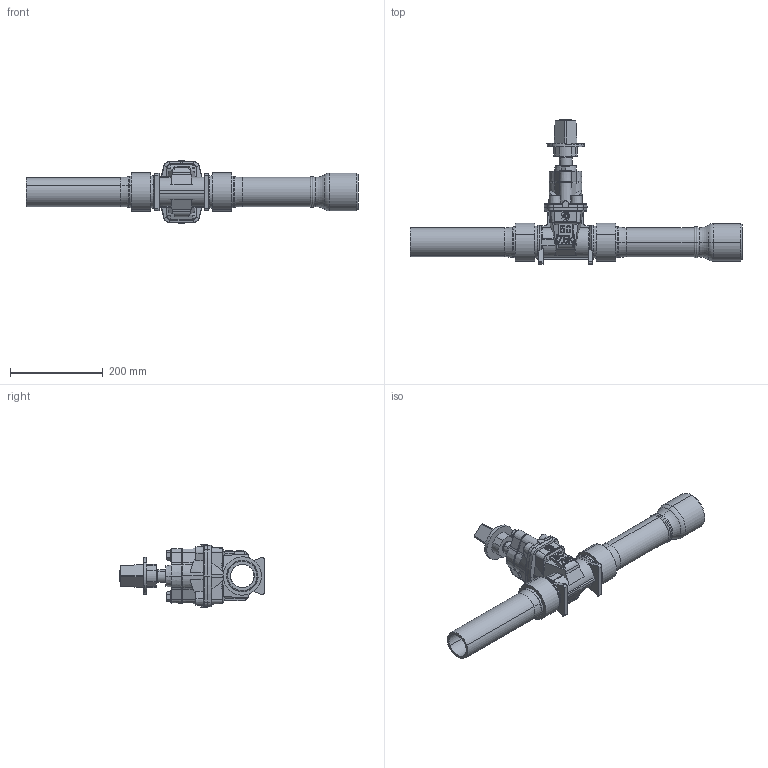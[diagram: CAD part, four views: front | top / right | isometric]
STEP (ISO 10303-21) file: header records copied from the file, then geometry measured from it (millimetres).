
FILE_DESCRIPTION (( 'STEP AP203' ), '1' );
FILE_NAME ('Y05L03101(50L).STEP', '2024-12-06T06:56:00', ( '' ), ( '' ), 'SwSTEP 2.0', 'SolidWorks 2019', '' );
FILE_SCHEMA (( 'CONFIG_CONTROL_DESIGN' ));
Length unit declared in the file: millimetre
Products named in the file (1): Y05L03101(50L)
Bounding box: 714.9 x 310.74 x 134 mm (x, y, z)
Volume: 2271006.5 mm3; surface area: 376737.3 mm2
Topology: 1 solids, 1 shells, 677 faces, 1751 edges, 1119 vertices
Faces by surface type: plane 338, cone 134, cylinder 118, torus 55, bspline 32
Entity records: 24320 total; most frequent: CARTESIAN_POINT 8153, ORIENTED_EDGE 3494, DIRECTION 3172, EDGE_CURVE 1747, VERTEX_POINT 1119, AXIS2_PLACEMENT_3D 1108, LINE 956, VECTOR 956
